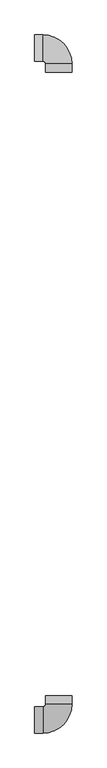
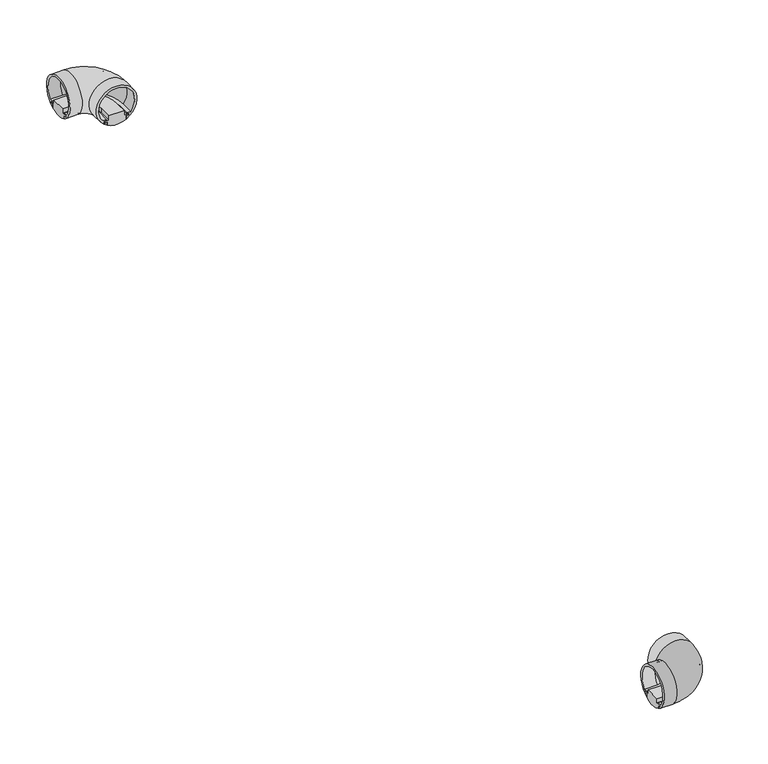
"""IFC4 building model written with IfcOpenShell, lengths in millimetres: light fixture geometry, ARTEMIDE-AoL-StandAlone-SquareRectangular_Suspended : StandALone_Suspended_SquareRectangular-1321x1321mm 9488lm 3000K."""

from ifc_helpers import new_model, si_unit, point, frame, origin, place, context, project, spatial, polyline, circle_curve, ellipse_curve, trimmed, source, transform, mapped, element, save
from ifc_brep_helpers import plane_surface, cylinder_surface, revolved_surface, advanced_brep


def light_fixture_8fe276a9(model_context):
    return source(origin(), model_context, "Body", "AdvancedBrep", [
        advanced_brep(
        [(1307.7532014, 1110.5, 502.9333396), (1307.7532014, 1110.5, 507.259212), (1311.3072884, 1110.5, 507.259212), (1311.3072884, 1110.5, 508.785971), (1305.5094589, 1110.5, 508.785971), (1305.5094589, 1110.5, 514.4273482), (1286.4969439, 1110.5, 514.4273482), (1286.4969439, 1110.5, 508.785971), (1280.6991144, 1110.5, 508.785971), (1280.6991144, 1110.5, 507.259212), (1284.2532014, 1110.5, 507.259212), (1284.2532014, 1110.5, 502.9333396), (1250.5032014, 1167.75, 502.9333396), (1250.5032014, 1144.25, 502.9333396), (1250.5032014, 1144.25, 507.259212), (1250.5032014, 1140.695913, 507.259212), (1250.5032014, 1140.695913, 508.785971), (1250.5032014, 1146.4937425, 508.785971), (1250.5032014, 1146.4937425, 514.4273482), (1250.5032014, 1165.5062575, 514.4273482), (1250.5032014, 1165.5062575, 508.785971), (1250.5032014, 1171.304087, 508.785971), (1250.5032014, 1171.304087, 507.259212), (1250.5032014, 1167.75, 507.259212), (1284.2532014, 1126.0, 502.9333396), (1307.7532014, 1126.0, 502.9333396), (1284.2532014, 1126.0, 507.259212), (1280.6991144, 1126.0, 507.259212), (1266.0032014, 1140.695913, 507.259212), (1266.0032014, 1144.25, 507.259212), (1280.6991144, 1126.0, 508.785971), (1286.4969439, 1126.0, 508.785971), (1266.0032014, 1146.4937425, 508.785971), (1266.0032014, 1140.695913, 508.785971), (1286.4969439, 1126.0, 514.4273482), (1305.5094589, 1126.0, 514.4273482), (1266.0032014, 1165.5062575, 514.4273482), (1266.0032014, 1146.4937425, 514.4273482), (1305.5094589, 1126.0, 508.785971), (1311.3072884, 1126.0, 508.785971), (1266.0032014, 1171.304087, 508.785971), (1266.0032014, 1165.5062575, 508.785971), (1311.3072884, 1126.0, 507.259212), (1307.7532014, 1126.0, 507.259212), (1266.0032014, 1167.75, 507.259212), (1266.0032014, 1171.304087, 507.259212), (1266.0032014, 1167.75, 502.9333396), (1266.0032014, 1144.25, 502.9333396)],
        [
            (0, 1),
            (1, 2),
            (2, 3),
            (3, 4),
            (4, 5),
            (5, 6),
            (6, 7),
            (7, 8),
            (8, 9),
            (9, 10),
            (10, 11),
            (11, 0, circle_curve(frame((1296.0032014, 1110.5, 525.0), z_axis=(0.0, -1.0, 0.0), x_axis=(-1.0, 0.0, 0.0)), 25.0)),
            (12, 13, circle_curve(frame((1250.5032014, 1156.0, 525.0), z_axis=(-1.0, 0.0, 0.0), x_axis=(0.0, -1.0, 0.0)), 25.0)),
            (13, 14),
            (14, 15),
            (15, 16),
            (16, 17),
            (17, 18),
            (18, 19),
            (19, 20),
            (20, 21),
            (21, 22),
            (22, 23),
            (23, 12),
            (11, 24),
            (24, 25, circle_curve(frame((1296.0032014, 1126.0, 525.0), z_axis=(0.0, -1.0, 0.0), x_axis=(-1.0, 0.0, 0.0)), 25.0)),
            (25, 0),
            (10, 26),
            (26, 24),
            (9, 27),
            (27, 28, circle_curve(frame((1266.0032014, 1126.0, 507.259212), z_axis=(0.0, 0.0, 1.0), x_axis=(1.0, 0.0, 0.0)), 14.695913)),
            (28, 15),
            (14, 29),
            (29, 26, circle_curve(frame((1266.0032014, 1126.0, 507.259212), z_axis=(0.0, 0.0, -1.0), x_axis=(1.0, 0.0, 0.0)), 18.25)),
            (8, 30),
            (30, 27),
            (7, 31),
            (31, 32, circle_curve(frame((1266.0032014, 1126.0, 508.785971), z_axis=(0.0, 0.0, 1.0), x_axis=(1.0, 0.0, 0.0)), 20.4937425)),
            (32, 17),
            (16, 33),
            (33, 30, circle_curve(frame((1266.0032014, 1126.0, 508.785971), z_axis=(0.0, 0.0, -1.0), x_axis=(1.0, 0.0, 0.0)), 14.695913)),
            (6, 34),
            (34, 31),
            (5, 35),
            (35, 36, circle_curve(frame((1266.0032014, 1126.0, 514.4273482), z_axis=(0.0, 0.0, 1.0), x_axis=(1.0, 0.0, 0.0)), 39.5062575)),
            (36, 19),
            (18, 37),
            (37, 34, circle_curve(frame((1266.0032014, 1126.0, 514.4273482), z_axis=(0.0, 0.0, -1.0), x_axis=(1.0, 0.0, 0.0)), 20.4937425)),
            (4, 38),
            (38, 35),
            (3, 39),
            (39, 40, circle_curve(frame((1266.0032014, 1126.0, 508.785971), z_axis=(0.0, 0.0, 1.0), x_axis=(1.0, 0.0, 0.0)), 45.304087)),
            (40, 21),
            (20, 41),
            (41, 38, circle_curve(frame((1266.0032014, 1126.0, 508.785971), z_axis=(0.0, 0.0, -1.0), x_axis=(1.0, 0.0, 0.0)), 39.5062575)),
            (2, 42),
            (42, 39),
            (1, 43),
            (43, 44, circle_curve(frame((1266.0032014, 1126.0, 507.259212), z_axis=(0.0, 0.0, 1.0), x_axis=(1.0, 0.0, 0.0)), 41.75)),
            (44, 23),
            (22, 45),
            (45, 42, circle_curve(frame((1266.0032014, 1126.0, 507.259212), z_axis=(0.0, 0.0, -1.0), x_axis=(1.0, 0.0, 0.0)), 45.304087)),
            (25, 43),
            (46, 25, circle_curve(frame((1266.0032014, 1126.0, 502.9333396), z_axis=(0.0, 0.0, -1.0), x_axis=(1.0, 0.0, 0.0)), 41.75)),
            (24, 47, circle_curve(frame((1266.0032014, 1126.0, 502.9333396), z_axis=(0.0, 0.0, 1.0), x_axis=(1.0, 0.0, 0.0)), 18.25)),
            (47, 46, circle_curve(frame((1266.0032014, 1156.0, 525.0), z_axis=(1.0, 0.0, 0.0), x_axis=(0.0, -1.0, 0.0)), 25.0)),
            (29, 47),
            (33, 28),
            (37, 32),
            (41, 36),
            (45, 40),
            (46, 44),
            (47, 13),
            (12, 46),
        ],
        [
            plane_surface(frame((1296.0032014, 1110.5, 500.0), z_axis=(0.0, -1.0, 0.0), x_axis=(0.0, 0.0, 1.0))),
            plane_surface(frame((1250.5032014, 1156.0, 500.0), z_axis=(-1.0, 0.0, 0.0), x_axis=(0.0, 0.0, 1.0))),
            cylinder_surface(frame((1296.0032014, 1110.5, 525.0), z_axis=(0.0, -1.0, 0.0), x_axis=(-1.0, 0.0, 0.0)), 25.0),
            plane_surface(frame((1284.2532014, 1110.5, 507.259212), z_axis=(-1.0, 0.0, 0.0), x_axis=(0.0, 1.0, 0.0))),
            plane_surface(frame((1280.6991144, 1110.5, 507.259212), z_axis=(0.0, 0.0, -1.0), x_axis=(0.0, 1.0, 0.0))),
            plane_surface(frame((1280.6991144, 1110.5, 508.785971), z_axis=(-1.0, 0.0, 0.0), x_axis=(0.0, 1.0, 0.0))),
            plane_surface(frame((1286.4969439, 1110.5, 508.785971), z_axis=(0.0, 0.0, 1.0), x_axis=(0.0, 1.0, 0.0))),
            plane_surface(frame((1286.4969439, 1110.5, 514.4273482), z_axis=(-1.0, 0.0, 0.0), x_axis=(0.0, 1.0, 0.0))),
            plane_surface(frame((1305.5094589, 1110.5, 514.4273482), z_axis=(0.0, 0.0, 1.0), x_axis=(0.0, 1.0, 0.0))),
            plane_surface(frame((1305.5094589, 1110.5, 508.785971), z_axis=(1.0, 0.0, 0.0), x_axis=(0.0, 1.0, 0.0))),
            plane_surface(frame((1311.3072884, 1110.5, 508.785971), z_axis=(0.0, 0.0, 1.0), x_axis=(0.0, 1.0, 0.0))),
            plane_surface(frame((1311.3072884, 1110.5, 507.259212), z_axis=(1.0, 0.0, 0.0), x_axis=(0.0, 1.0, 0.0))),
            plane_surface(frame((1307.7532014, 1110.5, 507.259212), z_axis=(0.0, 0.0, -1.0), x_axis=(0.0, 1.0, 0.0))),
            plane_surface(frame((1307.7532014, 1110.5, 502.9333396), z_axis=(1.0, 0.0, 0.0), x_axis=(0.0, 1.0, 0.0))),
            revolved_surface(trimmed(ellipse_curve(frame((1296.0032014, 1126.0, 525.0), z_axis=(0.0, -1.0, 0.0), x_axis=(-1.0, 0.0, 0.0)), 25.0, 25.0), [point((1284.2532014, 1126.0, 502.9333396))], [point((1307.7532014, 1126.0, 502.9333396))], True, "CARTESIAN"), (1266.0032014, 1126.0, 500.0), (0.0, 0.0, 1.0)),
            revolved_surface(polyline([(1284.2532014, 1126.0, 507.259212), (1284.2532014, 1126.0, 502.9333396)]), (1266.0032014, 1126.0, 500.0), (0.0, 0.0, 1.0)),
            revolved_surface(polyline([(1280.6991144, 1126.0, 508.785971), (1280.6991144, 1126.0, 507.259212)]), (1266.0032014, 1126.0, 500.0), (0.0, 0.0, 1.0)),
            revolved_surface(polyline([(1286.4969439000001, 1126.0, 514.4273482), (1286.4969439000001, 1126.0, 508.785971)]), (1266.0032014, 1126.0, 500.0), (0.0, 0.0, 1.0)),
            cylinder_surface(frame((1266.0032014, 1126.0, 500.0), z_axis=(0.0, 0.0, 1.0), x_axis=(1.0, 0.0, 0.0)), 39.5062575),
            cylinder_surface(frame((1266.0032014, 1126.0, 500.0), z_axis=(0.0, 0.0, 1.0), x_axis=(1.0, 0.0, 0.0)), 45.304087),
            cylinder_surface(frame((1266.0032014, 1126.0, 500.0), z_axis=(0.0, 0.0, 1.0), x_axis=(1.0, 0.0, 0.0)), 41.75),
            cylinder_surface(frame((1266.0032014, 1156.0, 525.0), z_axis=(1.0, 0.0, 0.0), x_axis=(0.0, -1.0, 0.0)), 25.0),
            plane_surface(frame((1266.0032014, 1144.25, 507.259212), z_axis=(0.0, -1.0, 0.0), x_axis=(-1.0, 0.0, 0.0))),
            plane_surface(frame((1266.0032014, 1140.695913, 508.785971), z_axis=(0.0, -1.0, 0.0), x_axis=(-1.0, 0.0, 0.0))),
            plane_surface(frame((1266.0032014, 1146.4937425, 514.4273482), z_axis=(0.0, -1.0, 0.0), x_axis=(-1.0, 0.0, 0.0))),
            plane_surface(frame((1266.0032014, 1165.5062575, 508.785971), z_axis=(0.0, 1.0, 0.0), x_axis=(-1.0, 0.0, 0.0))),
            plane_surface(frame((1266.0032014, 1171.304087, 507.259212), z_axis=(0.0, 1.0, 0.0), x_axis=(-1.0, 0.0, 0.0))),
            plane_surface(frame((1266.0032014, 1167.75, 502.9333396), z_axis=(0.0, 1.0, 0.0), x_axis=(-1.0, 0.0, 0.0))),
        ],
        [
            (0, [[1, 2, 3, 4, 5, 6, 7, 8, 9, 10, 11, 12]]),
            (1, [[13, 14, 15, 16, 17, 18, 19, 20, 21, 22, 23, 24]]),
            (2, [[-12, 25, 26, 27]]),
            (3, [[-11, 28, 29, -25]]),
            (4, [[-10, 30, 31, 32, -15, 33, 34, -28]]),
            (5, [[-9, 35, 36, -30]]),
            (6, [[-8, 37, 38, 39, -17, 40, 41, -35]]),
            (7, [[-7, 42, 43, -37]]),
            (8, [[-6, 44, 45, 46, -19, 47, 48, -42]]),
            (9, [[-5, 49, 50, -44]]),
            (10, [[-4, 51, 52, 53, -21, 54, 55, -49]]),
            (11, [[-3, 56, 57, -51]]),
            (12, [[-2, 58, 59, 60, -23, 61, 62, -56]]),
            (13, [[-1, -27, 63, -58]]),
            (14, [[64, -26, 65, 66]]),
            (15, [[-65, -29, -34, 67]]),
            (16, [[-31, -36, -41, 68]]),
            (17, [[-38, -43, -48, 69]]),
            (18, [[-45, -50, -55, 70]]),
            (19, [[-52, -57, -62, 71]]),
            (20, [[-59, -63, -64, 72]]),
            (21, [[-66, 73, -13, 74]]),
            (22, [[-67, -33, -14, -73]]),
            (23, [[-68, -40, -16, -32]]),
            (24, [[-69, -47, -18, -39]]),
            (25, [[-70, -54, -20, -46]]),
            (26, [[-71, -61, -22, -53]]),
            (27, [[-72, -74, -24, -60]]),
        ],
    ),
        advanced_brep(
        [(1284.2532014, 1110.5, 502.9333396), (1284.2532014, 1110.5, 507.259212), (1282.3354474, 1110.5, 507.259212), (1282.3354474, 1110.5, 505.8288843), (1280.3854474, 1110.5, 507.2440748), (1280.3854474, 1110.5, 509.244074), (1283.3354474, 1110.5, 509.244074), (1283.3354474, 1110.5, 510.744074), (1278.725222, 1110.5, 510.744074), (1313.2811808, 1110.5, 510.744074), (1308.6709554, 1110.5, 510.744074), (1308.6709554, 1110.5, 509.244074), (1311.6209554, 1110.5, 509.244074), (1311.6209554, 1110.5, 507.2440748), (1309.6709554, 1110.5, 505.8288843), (1309.6709554, 1110.5, 507.259212), (1307.7532014, 1110.5, 507.259212), (1307.7532014, 1110.5, 502.9333396), (1250.5032014, 1144.25, 502.9333396), (1250.5032014, 1167.75, 502.9333396), (1250.5032014, 1167.75, 507.259212), (1250.5032014, 1169.667754, 507.259212), (1250.5032014, 1169.667754, 505.8288843), (1250.5032014, 1171.617754, 507.2440748), (1250.5032014, 1171.617754, 509.244074), (1250.5032014, 1168.667754, 509.244074), (1250.5032014, 1168.667754, 510.744074), (1250.5032014, 1173.2779794, 510.744074), (1250.5032014, 1138.7220206, 510.744074), (1250.5032014, 1143.332246, 510.744074), (1250.5032014, 1143.332246, 509.244074), (1250.5032014, 1140.382246, 509.244074), (1250.5032014, 1140.382246, 507.2440748), (1250.5032014, 1142.332246, 505.8288843), (1250.5032014, 1142.332246, 507.259212), (1250.5032014, 1144.25, 507.259212), (1307.7532014, 1126.0, 502.9333396), (1284.2532014, 1126.0, 502.9333396), (1307.7532014, 1126.0, 507.259212), (1309.6709554, 1126.0, 507.259212), (1266.0032014, 1169.667754, 507.259212), (1266.0032014, 1167.75, 507.259212), (1309.6709554, 1126.0, 505.8288843), (1311.6209554, 1126.0, 507.2440748), (1311.6209554, 1126.0, 509.244074), (1308.6709554, 1126.0, 509.244074), (1266.0032014, 1168.667754, 509.244074), (1266.0032014, 1171.617754, 509.244074), (1308.6709554, 1126.0, 510.744074), (1313.2811808, 1126.0, 510.744074), (1266.0032014, 1173.2779794, 510.744074), (1266.0032014, 1168.667754, 510.744074), (1278.725222, 1126.0, 510.744074), (1283.3354474, 1126.0, 510.744074), (1266.0032014, 1143.332246, 510.744074), (1266.0032014, 1138.7220206, 510.744074), (1283.3354474, 1126.0, 509.244074), (1280.3854474, 1126.0, 509.244074), (1266.0032014, 1140.382246, 509.244074), (1266.0032014, 1143.332246, 509.244074), (1280.3854474, 1126.0, 507.2440748), (1282.3354474, 1126.0, 505.8288843), (1282.3354474, 1126.0, 507.259212), (1284.2532014, 1126.0, 507.259212), (1266.0032014, 1144.25, 507.259212), (1266.0032014, 1142.332246, 507.259212), (1266.0032014, 1144.25, 502.9333396), (1266.0032014, 1167.75, 502.9333396), (1266.0032014, 1169.667754, 505.8288843), (1266.0032014, 1171.617754, 507.2440748), (1266.0032014, 1140.382246, 507.2440748), (1266.0032014, 1142.332246, 505.8288843)],
        [
            (0, 1),
            (1, 2),
            (2, 3),
            (3, 4),
            (4, 5),
            (5, 6),
            (6, 7),
            (7, 8),
            (8, 9, circle_curve(frame((1296.0032014, 1110.5, 525.0), z_axis=(0.0, 1.0, 0.0), x_axis=(-1.0, 0.0, 0.0)), 22.4)),
            (9, 10),
            (10, 11),
            (11, 12),
            (12, 13),
            (13, 14),
            (14, 15),
            (15, 16),
            (16, 17),
            (17, 0, circle_curve(frame((1296.0032014, 1110.5, 525.0), z_axis=(0.0, -1.0, 0.0), x_axis=(-1.0, 0.0, 0.0)), 25.0)),
            (18, 19, circle_curve(frame((1250.5032014, 1156.0, 525.0), z_axis=(-1.0, 0.0, 0.0), x_axis=(0.0, -1.0, 0.0)), 25.0)),
            (19, 20),
            (20, 21),
            (21, 22),
            (22, 23),
            (23, 24),
            (24, 25),
            (25, 26),
            (26, 27),
            (27, 28, circle_curve(frame((1250.5032014, 1156.0, 525.0), z_axis=(1.0, 0.0, 0.0), x_axis=(0.0, -1.0, 0.0)), 22.4)),
            (28, 29),
            (29, 30),
            (30, 31),
            (31, 32),
            (32, 33),
            (33, 34),
            (34, 35),
            (35, 18),
            (17, 36),
            (36, 37, circle_curve(frame((1296.0032014, 1126.0, 525.0), z_axis=(0.0, -1.0, 0.0), x_axis=(-1.0, 0.0, 0.0)), 25.0)),
            (37, 0),
            (16, 38),
            (38, 36),
            (15, 39),
            (39, 40, circle_curve(frame((1266.0032014, 1126.0, 507.259212), z_axis=(0.0, 0.0, 1.0), x_axis=(1.0, 0.0, 0.0)), 43.667754)),
            (40, 21),
            (20, 41),
            (41, 38, circle_curve(frame((1266.0032014, 1126.0, 507.259212), z_axis=(0.0, 0.0, -1.0), x_axis=(1.0, 0.0, 0.0)), 41.75)),
            (14, 42),
            (42, 39),
            (13, 43),
            (43, 42),
            (12, 44),
            (44, 43),
            (11, 45),
            (45, 46, circle_curve(frame((1266.0032014, 1126.0, 509.244074), z_axis=(0.0, 0.0, 1.0), x_axis=(1.0, 0.0, 0.0)), 42.667754)),
            (46, 25),
            (24, 47),
            (47, 44, circle_curve(frame((1266.0032014, 1126.0, 509.244074), z_axis=(0.0, 0.0, -1.0), x_axis=(1.0, 0.0, 0.0)), 45.617754)),
            (10, 48),
            (48, 45),
            (9, 49),
            (49, 50, circle_curve(frame((1266.0032014, 1126.0, 510.744074), z_axis=(0.0, 0.0, 1.0), x_axis=(1.0, 0.0, 0.0)), 47.2779794)),
            (50, 27),
            (26, 51),
            (51, 48, circle_curve(frame((1266.0032014, 1126.0, 510.744074), z_axis=(0.0, 0.0, -1.0), x_axis=(1.0, 0.0, 0.0)), 42.667754)),
            (8, 52),
            (52, 49, circle_curve(frame((1296.0032014, 1126.0, 525.0), z_axis=(0.0, 1.0, 0.0), x_axis=(-1.0, 0.0, 0.0)), 22.4)),
            (7, 53),
            (53, 54, circle_curve(frame((1266.0032014, 1126.0, 510.744074), z_axis=(0.0, 0.0, 1.0), x_axis=(1.0, 0.0, 0.0)), 17.332246)),
            (54, 29),
            (28, 55),
            (55, 52, circle_curve(frame((1266.0032014, 1126.0, 510.744074), z_axis=(0.0, 0.0, -1.0), x_axis=(1.0, 0.0, 0.0)), 12.7220206)),
            (6, 56),
            (56, 53),
            (5, 57),
            (57, 58, circle_curve(frame((1266.0032014, 1126.0, 509.244074), z_axis=(0.0, 0.0, 1.0), x_axis=(1.0, 0.0, 0.0)), 14.382246)),
            (58, 31),
            (30, 59),
            (59, 56, circle_curve(frame((1266.0032014, 1126.0, 509.244074), z_axis=(0.0, 0.0, -1.0), x_axis=(1.0, 0.0, 0.0)), 17.332246)),
            (4, 60),
            (60, 57),
            (3, 61),
            (61, 60),
            (2, 62),
            (62, 61),
            (1, 63),
            (63, 64, circle_curve(frame((1266.0032014, 1126.0, 507.259212), z_axis=(0.0, 0.0, 1.0), x_axis=(1.0, 0.0, 0.0)), 18.25)),
            (64, 35),
            (34, 65),
            (65, 62, circle_curve(frame((1266.0032014, 1126.0, 507.259212), z_axis=(0.0, 0.0, -1.0), x_axis=(1.0, 0.0, 0.0)), 16.332246)),
            (37, 63),
            (66, 37, circle_curve(frame((1266.0032014, 1126.0, 502.9333396), z_axis=(0.0, 0.0, -1.0), x_axis=(1.0, 0.0, 0.0)), 18.25)),
            (36, 67, circle_curve(frame((1266.0032014, 1126.0, 502.9333396), z_axis=(0.0, 0.0, 1.0), x_axis=(1.0, 0.0, 0.0)), 41.75)),
            (67, 66, circle_curve(frame((1266.0032014, 1156.0, 525.0), z_axis=(1.0, 0.0, 0.0), x_axis=(0.0, -1.0, 0.0)), 25.0)),
            (41, 67),
            (42, 68, circle_curve(frame((1266.0032014, 1126.0, 505.8288843), z_axis=(0.0, 0.0, 1.0), x_axis=(1.0, 0.0, 0.0)), 43.667754)),
            (68, 40),
            (43, 69, circle_curve(frame((1266.0032014, 1126.0, 507.2440748), z_axis=(0.0, 0.0, 1.0), x_axis=(1.0, 0.0, 0.0)), 45.617754)),
            (69, 68),
            (47, 69),
            (51, 46),
            (55, 50, circle_curve(frame((1266.0032014, 1156.0, 525.0), z_axis=(-1.0, 0.0, 0.0), x_axis=(0.0, -1.0, 0.0)), 22.4)),
            (59, 54),
            (60, 70, circle_curve(frame((1266.0032014, 1126.0, 507.2440748), z_axis=(0.0, 0.0, 1.0), x_axis=(1.0, 0.0, 0.0)), 14.382246)),
            (70, 58),
            (61, 71, circle_curve(frame((1266.0032014, 1126.0, 505.8288843), z_axis=(0.0, 0.0, 1.0), x_axis=(1.0, 0.0, 0.0)), 16.332246)),
            (71, 70),
            (65, 71),
            (66, 64),
            (67, 19),
            (18, 66),
            (68, 22),
            (69, 23),
            (70, 32),
            (71, 33),
        ],
        [
            plane_surface(frame((1296.0032014, 1110.5, 500.0), z_axis=(0.0, -1.0, 0.0), x_axis=(0.0, 0.0, 1.0))),
            plane_surface(frame((1250.5032014, 1156.0, 500.0), z_axis=(-1.0, 0.0, 0.0), x_axis=(0.0, 0.0, 1.0))),
            cylinder_surface(frame((1296.0032014, 1110.5, 525.0), z_axis=(0.0, -1.0, 0.0), x_axis=(-1.0, 0.0, 0.0)), 25.0),
            plane_surface(frame((1307.7532014, 1110.5, 507.259212), z_axis=(-1.0, 0.0, 0.0), x_axis=(0.0, 1.0, 0.0))),
            plane_surface(frame((1309.6709554, 1110.5, 507.259212), z_axis=(0.0, 0.0, 1.0), x_axis=(0.0, 1.0, 0.0))),
            plane_surface(frame((1309.6709554, 1110.5, 505.8288843), z_axis=(1.0, 0.0, 0.0), x_axis=(0.0, 1.0, 0.0))),
            plane_surface(frame((1311.6209554, 1110.5, 507.2440748), z_axis=(-0.5873593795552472, 0.0, 0.8093262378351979), x_axis=(0.0, 1.0, 0.0))),
            plane_surface(frame((1311.6209554, 1110.5, 509.244074), z_axis=(-1.0, 0.0, 0.0), x_axis=(0.0, 1.0, 0.0))),
            plane_surface(frame((1308.6709554, 1110.5, 509.244074), z_axis=(0.0, 0.0, -1.0), x_axis=(0.0, 1.0, 0.0))),
            plane_surface(frame((1308.6709554, 1110.5, 510.744074), z_axis=(-1.0, 0.0, 0.0), x_axis=(0.0, 1.0, 0.0))),
            plane_surface(frame((1313.2811808, 1110.5, 510.744074), z_axis=(0.0, 0.0, 1.0), x_axis=(0.0, 1.0, 0.0))),
            revolved_surface(polyline([(1273.6032014, 1126.0, 525.0), (1273.6032014, 1110.5, 525.0)]), (1296.0032014, 1110.5, 525.0), (0.0, 1.0, 0.0)),
            plane_surface(frame((1283.3354474, 1110.5, 510.744074), z_axis=(0.0, 0.0, 1.0), x_axis=(0.0, 1.0, 0.0))),
            plane_surface(frame((1283.3354474, 1110.5, 509.244074), z_axis=(1.0, 0.0, 0.0), x_axis=(0.0, 1.0, 0.0))),
            plane_surface(frame((1280.3854474, 1110.5, 509.244074), z_axis=(0.0, 0.0, -1.0), x_axis=(0.0, 1.0, 0.0))),
            plane_surface(frame((1280.3854474, 1110.5, 507.2440748), z_axis=(1.0, 0.0, 0.0), x_axis=(0.0, 1.0, 0.0))),
            plane_surface(frame((1282.3354474, 1110.5, 505.8288843), z_axis=(0.5873593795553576, 0.0, 0.8093262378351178), x_axis=(0.0, 1.0, 0.0))),
            plane_surface(frame((1282.3354474, 1110.5, 507.259212), z_axis=(-1.0, 0.0, 0.0), x_axis=(0.0, 1.0, 0.0))),
            plane_surface(frame((1284.2532014, 1110.5, 507.259212), z_axis=(0.0, 0.0, 1.0), x_axis=(0.0, 1.0, 0.0))),
            plane_surface(frame((1284.2532014, 1110.5, 502.9333396), z_axis=(1.0, 0.0, 0.0), x_axis=(0.0, 1.0, 0.0))),
            revolved_surface(trimmed(ellipse_curve(frame((1296.0032014, 1126.0, 525.0), z_axis=(0.0, -1.0, 0.0), x_axis=(-1.0, 0.0, 0.0)), 25.0, 25.0), [point((1307.7532014, 1126.0, 502.9333396))], [point((1284.2532014, 1126.0, 502.9333396))], True, "CARTESIAN"), (1266.0032014, 1126.0, 500.0), (0.0, 0.0, 1.0)),
            revolved_surface(polyline([(1307.7532014, 1126.0, 507.259212), (1307.7532014, 1126.0, 502.9333396)]), (1266.0032014, 1126.0, 500.0), (0.0, 0.0, 1.0)),
            cylinder_surface(frame((1266.0032014, 1126.0, 500.0), z_axis=(0.0, 0.0, 1.0), x_axis=(1.0, 0.0, 0.0)), 43.667754),
            revolved_surface(polyline([(1311.6209554, 1126.0, 507.2440748), (1309.6709554, 1126.0, 505.8288843)]), (1266.0032014, 1126.0, 500.0), (0.0, 0.0, 1.0)),
            revolved_surface(polyline([(1311.6209554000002, 1126.0, 509.244074), (1311.6209554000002, 1126.0, 507.2440748)]), (1266.0032014, 1126.0, 500.0), (0.0, 0.0, 1.0)),
            revolved_surface(polyline([(1308.6709554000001, 1126.0, 510.744074), (1308.6709554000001, 1126.0, 509.244074)]), (1266.0032014, 1126.0, 500.0), (0.0, 0.0, 1.0)),
            revolved_surface(trimmed(ellipse_curve(frame((1296.0032014, 1126.0, 525.0), z_axis=(0.0, 1.0, 0.0), x_axis=(-1.0, 0.0, 0.0)), 22.4, 22.4), [point((1278.725222, 1126.0, 510.744074))], [point((1313.2811808, 1126.0, 510.744074))], True, "CARTESIAN"), (1266.0032014, 1126.0, 500.0), (0.0, 0.0, 1.0)),
            cylinder_surface(frame((1266.0032014, 1126.0, 500.0), z_axis=(0.0, 0.0, 1.0), x_axis=(1.0, 0.0, 0.0)), 17.332246),
            cylinder_surface(frame((1266.0032014, 1126.0, 500.0), z_axis=(0.0, 0.0, 1.0), x_axis=(1.0, 0.0, 0.0)), 14.382246),
            revolved_surface(polyline([(1282.3354474, 1126.0, 505.8288843), (1280.3854474, 1126.0, 507.2440748)]), (1266.0032014, 1126.0, 500.0), (0.0, 0.0, 1.0)),
            revolved_surface(polyline([(1282.3354474, 1126.0, 507.259212), (1282.3354474, 1126.0, 505.8288843)]), (1266.0032014, 1126.0, 500.0), (0.0, 0.0, 1.0)),
            cylinder_surface(frame((1266.0032014, 1126.0, 500.0), z_axis=(0.0, 0.0, 1.0), x_axis=(1.0, 0.0, 0.0)), 18.25),
            cylinder_surface(frame((1266.0032014, 1156.0, 525.0), z_axis=(1.0, 0.0, 0.0), x_axis=(0.0, -1.0, 0.0)), 25.0),
            plane_surface(frame((1266.0032014, 1167.75, 507.259212), z_axis=(0.0, -1.0, 0.0), x_axis=(-1.0, 0.0, 0.0))),
            plane_surface(frame((1266.0032014, 1169.667754, 505.8288843), z_axis=(0.0, 1.0, 0.0), x_axis=(-1.0, 0.0, 0.0))),
            plane_surface(frame((1266.0032014, 1171.617754, 507.2440748), z_axis=(0.0, -0.5873593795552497, 0.809326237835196), x_axis=(-1.0, 0.0, 0.0))),
            plane_surface(frame((1266.0032014, 1171.617754, 509.244074), z_axis=(0.0, -1.0, 0.0), x_axis=(-1.0, 0.0, 0.0))),
            plane_surface(frame((1266.0032014, 1168.667754, 510.744074), z_axis=(0.0, -1.0, 0.0), x_axis=(-1.0, 0.0, 0.0))),
            revolved_surface(polyline([(1250.5032014, 1133.6, 525.0), (1266.0032014, 1133.6, 525.0)]), (1266.0032014, 1156.0, 525.0), (-1.0, 0.0, 0.0)),
            plane_surface(frame((1266.0032014, 1143.332246, 509.244074), z_axis=(0.0, 1.0, 0.0), x_axis=(-1.0, 0.0, 0.0))),
            plane_surface(frame((1266.0032014, 1140.382246, 507.2440748), z_axis=(0.0, 1.0, 0.0), x_axis=(-1.0, 0.0, 0.0))),
            plane_surface(frame((1266.0032014, 1142.332246, 505.8288843), z_axis=(0.0, 0.587359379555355, 0.8093262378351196), x_axis=(-1.0, 0.0, 0.0))),
            plane_surface(frame((1266.0032014, 1142.332246, 507.259212), z_axis=(0.0, -1.0, 0.0), x_axis=(-1.0, 0.0, 0.0))),
            plane_surface(frame((1266.0032014, 1144.25, 502.9333396), z_axis=(0.0, 1.0, 0.0), x_axis=(-1.0, 0.0, 0.0))),
        ],
        [
            (0, [[1, 2, 3, 4, 5, 6, 7, 8, 9, 10, 11, 12, 13, 14, 15, 16, 17, 18]]),
            (1, [[19, 20, 21, 22, 23, 24, 25, 26, 27, 28, 29, 30, 31, 32, 33, 34, 35, 36]]),
            (2, [[-18, 37, 38, 39]]),
            (3, [[-17, 40, 41, -37]]),
            (4, [[-16, 42, 43, 44, -21, 45, 46, -40]]),
            (5, [[-15, 47, 48, -42]]),
            (6, [[-14, 49, 50, -47]]),
            (7, [[-13, 51, 52, -49]]),
            (8, [[-12, 53, 54, 55, -25, 56, 57, -51]]),
            (9, [[-11, 58, 59, -53]]),
            (10, [[-10, 60, 61, 62, -27, 63, 64, -58]]),
            (11, [[-9, 65, 66, -60]]),
            (12, [[-8, 67, 68, 69, -29, 70, 71, -65]]),
            (13, [[-7, 72, 73, -67]]),
            (14, [[-6, 74, 75, 76, -31, 77, 78, -72]]),
            (15, [[-5, 79, 80, -74]]),
            (16, [[-4, 81, 82, -79]]),
            (17, [[-3, 83, 84, -81]]),
            (18, [[-2, 85, 86, 87, -35, 88, 89, -83]]),
            (19, [[-1, -39, 90, -85]]),
            (20, [[91, -38, 92, 93]]),
            (21, [[-92, -41, -46, 94]]),
            (22, [[-43, -48, 95, 96]]),
            (23, [[-95, -50, 97, 98]]),
            (24, [[-97, -52, -57, 99]]),
            (25, [[-54, -59, -64, 100]]),
            (26, [[-61, -66, -71, 101]]),
            (27, [[-68, -73, -78, 102]]),
            (28, [[-75, -80, 103, 104]]),
            (29, [[-103, -82, 105, 106]]),
            (30, [[-105, -84, -89, 107]]),
            (31, [[-86, -90, -91, 108]]),
            (32, [[-93, 109, -19, 110]]),
            (33, [[-94, -45, -20, -109]]),
            (34, [[-96, 111, -22, -44]]),
            (35, [[-98, 112, -23, -111]]),
            (36, [[-99, -56, -24, -112]]),
            (37, [[-100, -63, -26, -55]]),
            (38, [[-101, -70, -28, -62]]),
            (39, [[-102, -77, -30, -69]]),
            (40, [[-104, 113, -32, -76]]),
            (41, [[-106, 114, -33, -113]]),
            (42, [[-107, -88, -34, -114]]),
            (43, [[-108, -110, -36, -87]]),
        ],
    ),
        advanced_brep(
        [(1250.5032014, -126.75, 502.9333396), (1250.5032014, -126.75, 507.259212), (1250.5032014, -130.304087, 507.259212), (1250.5032014, -130.304087, 508.785971), (1250.5032014, -124.5062575, 508.785971), (1250.5032014, -124.5062575, 514.4273482), (1250.5032014, -105.4937425, 514.4273482), (1250.5032014, -105.4937425, 508.785971), (1250.5032014, -99.695913, 508.785971), (1250.5032014, -99.695913, 507.259212), (1250.5032014, -103.25, 507.259212), (1250.5032014, -103.25, 502.9333396), (1307.7532014, -69.5, 502.9333396), (1284.2532014, -69.5, 502.9333396), (1284.2532014, -69.5, 507.259212), (1280.6991144, -69.5, 507.259212), (1280.6991144, -69.5, 508.785971), (1286.4969439, -69.5, 508.785971), (1286.4969439, -69.5, 514.4273482), (1305.5094589, -69.5, 514.4273482), (1305.5094589, -69.5, 508.785971), (1311.3072884, -69.5, 508.785971), (1311.3072884, -69.5, 507.259212), (1307.7532014, -69.5, 507.259212), (1266.0032014, -103.25, 502.9333396), (1266.0032014, -126.75, 502.9333396), (1266.0032014, -103.25, 507.259212), (1266.0032014, -99.695913, 507.259212), (1280.6991144, -85.0, 507.259212), (1284.2532014, -85.0, 507.259212), (1266.0032014, -99.695913, 508.785971), (1266.0032014, -105.4937425, 508.785971), (1286.4969439, -85.0, 508.785971), (1280.6991144, -85.0, 508.785971), (1266.0032014, -105.4937425, 514.4273482), (1266.0032014, -124.5062575, 514.4273482), (1305.5094589, -85.0, 514.4273482), (1286.4969439, -85.0, 514.4273482), (1266.0032014, -124.5062575, 508.785971), (1266.0032014, -130.304087, 508.785971), (1311.3072884, -85.0, 508.785971), (1305.5094589, -85.0, 508.785971), (1266.0032014, -130.304087, 507.259212), (1266.0032014, -126.75, 507.259212), (1307.7532014, -85.0, 507.259212), (1311.3072884, -85.0, 507.259212), (1307.7532014, -85.0, 502.9333396), (1284.2532014, -85.0, 502.9333396)],
        [
            (0, 1),
            (1, 2),
            (2, 3),
            (3, 4),
            (4, 5),
            (5, 6),
            (6, 7),
            (7, 8),
            (8, 9),
            (9, 10),
            (10, 11),
            (11, 0, circle_curve(frame((1250.5032014, -115.0, 525.0), z_axis=(-1.0, 0.0, 0.0), x_axis=(0.0, 1.0, 0.0)), 25.0)),
            (12, 13, circle_curve(frame((1296.0032014, -69.5, 525.0), z_axis=(0.0, 1.0, 0.0), x_axis=(-1.0, 0.0, 0.0)), 25.0)),
            (13, 14),
            (14, 15),
            (15, 16),
            (16, 17),
            (17, 18),
            (18, 19),
            (19, 20),
            (20, 21),
            (21, 22),
            (22, 23),
            (23, 12),
            (11, 24),
            (24, 25, circle_curve(frame((1266.0032014, -115.0, 525.0), z_axis=(-1.0, 0.0, 0.0), x_axis=(0.0, 1.0, 0.0)), 25.0)),
            (25, 0),
            (10, 26),
            (26, 24),
            (9, 27),
            (27, 28, circle_curve(frame((1266.0032014, -85.0, 507.259212), z_axis=(0.0, 0.0, 1.0), x_axis=(0.0, -1.0, 0.0)), 14.695913)),
            (28, 15),
            (14, 29),
            (29, 26, circle_curve(frame((1266.0032014, -85.0, 507.259212), z_axis=(0.0, 0.0, -1.0), x_axis=(0.0, -1.0, 0.0)), 18.25)),
            (8, 30),
            (30, 27),
            (7, 31),
            (31, 32, circle_curve(frame((1266.0032014, -85.0, 508.785971), z_axis=(0.0, 0.0, 1.0), x_axis=(0.0, -1.0, 0.0)), 20.4937425)),
            (32, 17),
            (16, 33),
            (33, 30, circle_curve(frame((1266.0032014, -85.0, 508.785971), z_axis=(0.0, 0.0, -1.0), x_axis=(0.0, -1.0, 0.0)), 14.695913)),
            (6, 34),
            (34, 31),
            (5, 35),
            (35, 36, circle_curve(frame((1266.0032014, -85.0, 514.4273482), z_axis=(0.0, 0.0, 1.0), x_axis=(0.0, -1.0, 0.0)), 39.5062575)),
            (36, 19),
            (18, 37),
            (37, 34, circle_curve(frame((1266.0032014, -85.0, 514.4273482), z_axis=(0.0, 0.0, -1.0), x_axis=(0.0, -1.0, 0.0)), 20.4937425)),
            (4, 38),
            (38, 35),
            (3, 39),
            (39, 40, circle_curve(frame((1266.0032014, -85.0, 508.785971), z_axis=(0.0, 0.0, 1.0), x_axis=(0.0, -1.0, 0.0)), 45.304087)),
            (40, 21),
            (20, 41),
            (41, 38, circle_curve(frame((1266.0032014, -85.0, 508.785971), z_axis=(0.0, 0.0, -1.0), x_axis=(0.0, -1.0, 0.0)), 39.5062575)),
            (2, 42),
            (42, 39),
            (1, 43),
            (43, 44, circle_curve(frame((1266.0032014, -85.0, 507.259212), z_axis=(0.0, 0.0, 1.0), x_axis=(0.0, -1.0, 0.0)), 41.75)),
            (44, 23),
            (22, 45),
            (45, 42, circle_curve(frame((1266.0032014, -85.0, 507.259212), z_axis=(0.0, 0.0, -1.0), x_axis=(0.0, -1.0, 0.0)), 45.304087)),
            (25, 43),
            (46, 25, circle_curve(frame((1266.0032014, -85.0, 502.9333396), z_axis=(0.0, 0.0, -1.0), x_axis=(0.0, -1.0, 0.0)), 41.75)),
            (24, 47, circle_curve(frame((1266.0032014, -85.0, 502.9333396), z_axis=(0.0, 0.0, 1.0), x_axis=(0.0, -1.0, 0.0)), 18.25)),
            (47, 46, circle_curve(frame((1296.0032014, -85.0, 525.0), z_axis=(0.0, -1.0, 0.0), x_axis=(-1.0, 0.0, 0.0)), 25.0)),
            (29, 47),
            (33, 28),
            (37, 32),
            (41, 36),
            (45, 40),
            (46, 44),
            (47, 13),
            (12, 46),
        ],
        [
            plane_surface(frame((1250.5032014, -115.0, 500.0), z_axis=(-1.0, 0.0, 0.0), x_axis=(0.0, 0.0, 1.0))),
            plane_surface(frame((1296.0032014, -69.5, 500.0), z_axis=(0.0, 1.0, 0.0), x_axis=(0.0, 0.0, 1.0))),
            cylinder_surface(frame((1250.5032014, -115.0, 525.0), z_axis=(-1.0, 0.0, 0.0), x_axis=(0.0, 1.0, 0.0)), 25.0),
            plane_surface(frame((1250.5032014, -103.25, 507.259212), z_axis=(0.0, 1.0, 0.0), x_axis=(1.0, 0.0, 0.0))),
            plane_surface(frame((1250.5032014, -99.695913, 507.259212), z_axis=(0.0, 0.0, -1.0), x_axis=(1.0, 0.0, 0.0))),
            plane_surface(frame((1250.5032014, -99.695913, 508.785971), z_axis=(0.0, 1.0, 0.0), x_axis=(1.0, 0.0, 0.0))),
            plane_surface(frame((1250.5032014, -105.4937425, 508.785971), z_axis=(0.0, 0.0, 1.0), x_axis=(1.0, 0.0, 0.0))),
            plane_surface(frame((1250.5032014, -105.4937425, 514.4273482), z_axis=(0.0, 1.0, 0.0), x_axis=(1.0, 0.0, 0.0))),
            plane_surface(frame((1250.5032014, -124.5062575, 514.4273482), z_axis=(0.0, 0.0, 1.0), x_axis=(1.0, 0.0, 0.0))),
            plane_surface(frame((1250.5032014, -124.5062575, 508.785971), z_axis=(0.0, -1.0, 0.0), x_axis=(1.0, 0.0, 0.0))),
            plane_surface(frame((1250.5032014, -130.304087, 508.785971), z_axis=(0.0, 0.0, 1.0), x_axis=(1.0, 0.0, 0.0))),
            plane_surface(frame((1250.5032014, -130.304087, 507.259212), z_axis=(0.0, -1.0, 0.0), x_axis=(1.0, 0.0, 0.0))),
            plane_surface(frame((1250.5032014, -126.75, 507.259212), z_axis=(0.0, 0.0, -1.0), x_axis=(1.0, 0.0, 0.0))),
            plane_surface(frame((1250.5032014, -126.75, 502.9333396), z_axis=(0.0, -1.0, 0.0), x_axis=(1.0, 0.0, 0.0))),
            revolved_surface(trimmed(ellipse_curve(frame((1266.0032014, -115.0, 525.0), z_axis=(-1.0, 0.0, 0.0), x_axis=(0.0, 1.0, 0.0)), 25.0, 25.0), [point((1266.0032014, -103.25, 502.9333396))], [point((1266.0032014, -126.75, 502.9333396))], True, "CARTESIAN"), (1266.0032014, -85.0, 500.0), (0.0, 0.0, 1.0)),
            revolved_surface(polyline([(1266.0032014, -103.25, 507.259212), (1266.0032014, -103.25, 502.9333396)]), (1266.0032014, -85.0, 500.0), (0.0, 0.0, 1.0)),
            revolved_surface(polyline([(1266.0032014, -99.695913, 508.785971), (1266.0032014, -99.695913, 507.259212)]), (1266.0032014, -85.0, 500.0), (0.0, 0.0, 1.0)),
            revolved_surface(polyline([(1266.0032014, -105.4937425, 514.4273482), (1266.0032014, -105.4937425, 508.785971)]), (1266.0032014, -85.0, 500.0), (0.0, 0.0, 1.0)),
            cylinder_surface(frame((1266.0032014, -85.0, 500.0), z_axis=(0.0, 0.0, 1.0), x_axis=(0.0, -1.0, 0.0)), 39.5062575),
            cylinder_surface(frame((1266.0032014, -85.0, 500.0), z_axis=(0.0, 0.0, 1.0), x_axis=(0.0, -1.0, 0.0)), 45.304087),
            cylinder_surface(frame((1266.0032014, -85.0, 500.0), z_axis=(0.0, 0.0, 1.0), x_axis=(0.0, -1.0, 0.0)), 41.75),
            cylinder_surface(frame((1296.0032014, -85.0, 525.0), z_axis=(0.0, -1.0, 0.0), x_axis=(-1.0, 0.0, 0.0)), 25.0),
            plane_surface(frame((1284.2532014, -85.0, 507.259212), z_axis=(-1.0, 0.0, 0.0), x_axis=(0.0, 1.0, 0.0))),
            plane_surface(frame((1280.6991144, -85.0, 508.785971), z_axis=(-1.0, 0.0, 0.0), x_axis=(0.0, 1.0, 0.0))),
            plane_surface(frame((1286.4969439, -85.0, 514.4273482), z_axis=(-1.0, 0.0, 0.0), x_axis=(0.0, 1.0, 0.0))),
            plane_surface(frame((1305.5094589, -85.0, 508.785971), z_axis=(1.0, 0.0, 0.0), x_axis=(0.0, 1.0, 0.0))),
            plane_surface(frame((1311.3072884, -85.0, 507.259212), z_axis=(1.0, 0.0, 0.0), x_axis=(0.0, 1.0, 0.0))),
            plane_surface(frame((1307.7532014, -85.0, 502.9333396), z_axis=(1.0, 0.0, 0.0), x_axis=(0.0, 1.0, 0.0))),
        ],
        [
            (0, [[1, 2, 3, 4, 5, 6, 7, 8, 9, 10, 11, 12]]),
            (1, [[13, 14, 15, 16, 17, 18, 19, 20, 21, 22, 23, 24]]),
            (2, [[-12, 25, 26, 27]]),
            (3, [[-11, 28, 29, -25]]),
            (4, [[-10, 30, 31, 32, -15, 33, 34, -28]]),
            (5, [[-9, 35, 36, -30]]),
            (6, [[-8, 37, 38, 39, -17, 40, 41, -35]]),
            (7, [[-7, 42, 43, -37]]),
            (8, [[-6, 44, 45, 46, -19, 47, 48, -42]]),
            (9, [[-5, 49, 50, -44]]),
            (10, [[-4, 51, 52, 53, -21, 54, 55, -49]]),
            (11, [[-3, 56, 57, -51]]),
            (12, [[-2, 58, 59, 60, -23, 61, 62, -56]]),
            (13, [[-1, -27, 63, -58]]),
            (14, [[64, -26, 65, 66]]),
            (15, [[-65, -29, -34, 67]]),
            (16, [[-31, -36, -41, 68]]),
            (17, [[-38, -43, -48, 69]]),
            (18, [[-45, -50, -55, 70]]),
            (19, [[-52, -57, -62, 71]]),
            (20, [[-59, -63, -64, 72]]),
            (21, [[-66, 73, -13, 74]]),
            (22, [[-67, -33, -14, -73]]),
            (23, [[-68, -40, -16, -32]]),
            (24, [[-69, -47, -18, -39]]),
            (25, [[-70, -54, -20, -46]]),
            (26, [[-71, -61, -22, -53]]),
            (27, [[-72, -74, -24, -60]]),
        ],
    ),
        advanced_brep(
        [(1250.5032014, -103.25, 502.9333396), (1250.5032014, -103.25, 507.259212), (1250.5032014, -101.332246, 507.259212), (1250.5032014, -101.332246, 505.8288843), (1250.5032014, -99.382246, 507.2440748), (1250.5032014, -99.382246, 509.244074), (1250.5032014, -102.332246, 509.244074), (1250.5032014, -102.332246, 510.744074), (1250.5032014, -97.7220206, 510.744074), (1250.5032014, -132.2779794, 510.744074), (1250.5032014, -127.667754, 510.744074), (1250.5032014, -127.667754, 509.244074), (1250.5032014, -130.617754, 509.244074), (1250.5032014, -130.617754, 507.2440748), (1250.5032014, -128.667754, 505.8288843), (1250.5032014, -128.667754, 507.259212), (1250.5032014, -126.75, 507.259212), (1250.5032014, -126.75, 502.9333396), (1284.2532014, -69.5, 502.9333396), (1307.7532014, -69.5, 502.9333396), (1307.7532014, -69.5, 507.259212), (1309.6709554, -69.5, 507.259212), (1309.6709554, -69.5, 505.8288843), (1311.6209554, -69.5, 507.2440748), (1311.6209554, -69.5, 509.244074), (1308.6709554, -69.5, 509.244074), (1308.6709554, -69.5, 510.744074), (1313.2811808, -69.5, 510.744074), (1278.725222, -69.5, 510.744074), (1283.3354474, -69.5, 510.744074), (1283.3354474, -69.5, 509.244074), (1280.3854474, -69.5, 509.244074), (1280.3854474, -69.5, 507.2440748), (1282.3354474, -69.5, 505.8288843), (1282.3354474, -69.5, 507.259212), (1284.2532014, -69.5, 507.259212), (1266.0032014, -126.75, 502.9333396), (1266.0032014, -103.25, 502.9333396), (1266.0032014, -126.75, 507.259212), (1266.0032014, -128.667754, 507.259212), (1309.6709554, -85.0, 507.259212), (1307.7532014, -85.0, 507.259212), (1266.0032014, -128.667754, 505.8288843), (1266.0032014, -130.617754, 507.2440748), (1266.0032014, -130.617754, 509.244074), (1266.0032014, -127.667754, 509.244074), (1308.6709554, -85.0, 509.244074), (1311.6209554, -85.0, 509.244074), (1266.0032014, -127.667754, 510.744074), (1266.0032014, -132.2779794, 510.744074), (1313.2811808, -85.0, 510.744074), (1308.6709554, -85.0, 510.744074), (1266.0032014, -97.7220206, 510.744074), (1266.0032014, -102.332246, 510.744074), (1283.3354474, -85.0, 510.744074), (1278.725222, -85.0, 510.744074), (1266.0032014, -102.332246, 509.244074), (1266.0032014, -99.382246, 509.244074), (1280.3854474, -85.0, 509.244074), (1283.3354474, -85.0, 509.244074), (1266.0032014, -99.382246, 507.2440748), (1266.0032014, -101.332246, 505.8288843), (1266.0032014, -101.332246, 507.259212), (1266.0032014, -103.25, 507.259212), (1284.2532014, -85.0, 507.259212), (1282.3354474, -85.0, 507.259212), (1284.2532014, -85.0, 502.9333396), (1307.7532014, -85.0, 502.9333396), (1309.6709554, -85.0, 505.8288843), (1311.6209554, -85.0, 507.2440748), (1280.3854474, -85.0, 507.2440748), (1282.3354474, -85.0, 505.8288843)],
        [
            (0, 1),
            (1, 2),
            (2, 3),
            (3, 4),
            (4, 5),
            (5, 6),
            (6, 7),
            (7, 8),
            (8, 9, circle_curve(frame((1250.5032014, -115.0, 525.0), z_axis=(1.0, 0.0, 0.0), x_axis=(0.0, 1.0, 0.0)), 22.4)),
            (9, 10),
            (10, 11),
            (11, 12),
            (12, 13),
            (13, 14),
            (14, 15),
            (15, 16),
            (16, 17),
            (17, 0, circle_curve(frame((1250.5032014, -115.0, 525.0), z_axis=(-1.0, 0.0, 0.0), x_axis=(0.0, 1.0, 0.0)), 25.0)),
            (18, 19, circle_curve(frame((1296.0032014, -69.5, 525.0), z_axis=(0.0, 1.0, 0.0), x_axis=(-1.0, 0.0, 0.0)), 25.0)),
            (19, 20),
            (20, 21),
            (21, 22),
            (22, 23),
            (23, 24),
            (24, 25),
            (25, 26),
            (26, 27),
            (27, 28, circle_curve(frame((1296.0032014, -69.5, 525.0), z_axis=(0.0, -1.0, 0.0), x_axis=(-1.0, 0.0, 0.0)), 22.4)),
            (28, 29),
            (29, 30),
            (30, 31),
            (31, 32),
            (32, 33),
            (33, 34),
            (34, 35),
            (35, 18),
            (17, 36),
            (36, 37, circle_curve(frame((1266.0032014, -115.0, 525.0), z_axis=(-1.0, 0.0, 0.0), x_axis=(0.0, 1.0, 0.0)), 25.0)),
            (37, 0),
            (16, 38),
            (38, 36),
            (15, 39),
            (39, 40, circle_curve(frame((1266.0032014, -85.0, 507.259212), z_axis=(0.0, 0.0, 1.0), x_axis=(0.0, -1.0, 0.0)), 43.667754)),
            (40, 21),
            (20, 41),
            (41, 38, circle_curve(frame((1266.0032014, -85.0, 507.259212), z_axis=(0.0, 0.0, -1.0), x_axis=(0.0, -1.0, 0.0)), 41.75)),
            (14, 42),
            (42, 39),
            (13, 43),
            (43, 42),
            (12, 44),
            (44, 43),
            (11, 45),
            (45, 46, circle_curve(frame((1266.0032014, -85.0, 509.244074), z_axis=(0.0, 0.0, 1.0), x_axis=(0.0, -1.0, 0.0)), 42.667754)),
            (46, 25),
            (24, 47),
            (47, 44, circle_curve(frame((1266.0032014, -85.0, 509.244074), z_axis=(0.0, 0.0, -1.0), x_axis=(0.0, -1.0, 0.0)), 45.617754)),
            (10, 48),
            (48, 45),
            (9, 49),
            (49, 50, circle_curve(frame((1266.0032014, -85.0, 510.744074), z_axis=(0.0, 0.0, 1.0), x_axis=(0.0, -1.0, 0.0)), 47.2779794)),
            (50, 27),
            (26, 51),
            (51, 48, circle_curve(frame((1266.0032014, -85.0, 510.744074), z_axis=(0.0, 0.0, -1.0), x_axis=(0.0, -1.0, 0.0)), 42.667754)),
            (8, 52),
            (52, 49, circle_curve(frame((1266.0032014, -115.0, 525.0), z_axis=(1.0, 0.0, 0.0), x_axis=(0.0, 1.0, 0.0)), 22.4)),
            (7, 53),
            (53, 54, circle_curve(frame((1266.0032014, -85.0, 510.744074), z_axis=(0.0, 0.0, 1.0), x_axis=(0.0, -1.0, 0.0)), 17.332246)),
            (54, 29),
            (28, 55),
            (55, 52, circle_curve(frame((1266.0032014, -85.0, 510.744074), z_axis=(0.0, 0.0, -1.0), x_axis=(0.0, -1.0, 0.0)), 12.7220206)),
            (6, 56),
            (56, 53),
            (5, 57),
            (57, 58, circle_curve(frame((1266.0032014, -85.0, 509.244074), z_axis=(0.0, 0.0, 1.0), x_axis=(0.0, -1.0, 0.0)), 14.382246)),
            (58, 31),
            (30, 59),
            (59, 56, circle_curve(frame((1266.0032014, -85.0, 509.244074), z_axis=(0.0, 0.0, -1.0), x_axis=(0.0, -1.0, 0.0)), 17.332246)),
            (4, 60),
            (60, 57),
            (3, 61),
            (61, 60),
            (2, 62),
            (62, 61),
            (1, 63),
            (63, 64, circle_curve(frame((1266.0032014, -85.0, 507.259212), z_axis=(0.0, 0.0, 1.0), x_axis=(0.0, -1.0, 0.0)), 18.25)),
            (64, 35),
            (34, 65),
            (65, 62, circle_curve(frame((1266.0032014, -85.0, 507.259212), z_axis=(0.0, 0.0, -1.0), x_axis=(0.0, -1.0, 0.0)), 16.332246)),
            (37, 63),
            (66, 37, circle_curve(frame((1266.0032014, -85.0, 502.9333396), z_axis=(0.0, 0.0, -1.0), x_axis=(0.0, -1.0, 0.0)), 18.25)),
            (36, 67, circle_curve(frame((1266.0032014, -85.0, 502.9333396), z_axis=(0.0, 0.0, 1.0), x_axis=(0.0, -1.0, 0.0)), 41.75)),
            (67, 66, circle_curve(frame((1296.0032014, -85.0, 525.0), z_axis=(0.0, -1.0, 0.0), x_axis=(-1.0, 0.0, 0.0)), 25.0)),
            (41, 67),
            (42, 68, circle_curve(frame((1266.0032014, -85.0, 505.8288843), z_axis=(0.0, 0.0, 1.0), x_axis=(0.0, -1.0, 0.0)), 43.667754)),
            (68, 40),
            (43, 69, circle_curve(frame((1266.0032014, -85.0, 507.2440748), z_axis=(0.0, 0.0, 1.0), x_axis=(0.0, -1.0, 0.0)), 45.617754)),
            (69, 68),
            (47, 69),
            (51, 46),
            (55, 50, circle_curve(frame((1296.0032014, -85.0, 525.0), z_axis=(0.0, 1.0, 0.0), x_axis=(-1.0, 0.0, 0.0)), 22.4)),
            (59, 54),
            (60, 70, circle_curve(frame((1266.0032014, -85.0, 507.2440748), z_axis=(0.0, 0.0, 1.0), x_axis=(0.0, -1.0, 0.0)), 14.382246)),
            (70, 58),
            (61, 71, circle_curve(frame((1266.0032014, -85.0, 505.8288843), z_axis=(0.0, 0.0, 1.0), x_axis=(0.0, -1.0, 0.0)), 16.332246)),
            (71, 70),
            (65, 71),
            (66, 64),
            (67, 19),
            (18, 66),
            (68, 22),
            (69, 23),
            (70, 32),
            (71, 33),
        ],
        [
            plane_surface(frame((1250.5032014, -115.0, 500.0), z_axis=(-1.0, 0.0, 0.0), x_axis=(0.0, 0.0, 1.0))),
            plane_surface(frame((1296.0032014, -69.5, 500.0), z_axis=(0.0, 1.0, 0.0), x_axis=(0.0, 0.0, 1.0))),
            cylinder_surface(frame((1250.5032014, -115.0, 525.0), z_axis=(-1.0, 0.0, 0.0), x_axis=(0.0, 1.0, 0.0)), 25.0),
            plane_surface(frame((1250.5032014, -126.75, 507.259212), z_axis=(0.0, 1.0, 0.0), x_axis=(1.0, 0.0, 0.0))),
            plane_surface(frame((1250.5032014, -128.667754, 507.259212), z_axis=(0.0, 0.0, 1.0), x_axis=(1.0, 0.0, 0.0))),
            plane_surface(frame((1250.5032014, -128.667754, 505.8288843), z_axis=(0.0, -1.0, 0.0), x_axis=(1.0, 0.0, 0.0))),
            plane_surface(frame((1250.5032014, -130.617754, 507.2440748), z_axis=(0.0, 0.5873593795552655, 0.8093262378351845), x_axis=(1.0, 0.0, 0.0))),
            plane_surface(frame((1250.5032014, -130.617754, 509.244074), z_axis=(0.0, 1.0, 0.0), x_axis=(1.0, 0.0, 0.0))),
            plane_surface(frame((1250.5032014, -127.667754, 509.244074), z_axis=(0.0, 0.0, -1.0), x_axis=(1.0, 0.0, 0.0))),
            plane_surface(frame((1250.5032014, -127.667754, 510.744074), z_axis=(0.0, 1.0, 0.0), x_axis=(1.0, 0.0, 0.0))),
            plane_surface(frame((1250.5032014, -132.2779794, 510.744074), z_axis=(0.0, 0.0, 1.0), x_axis=(1.0, 0.0, 0.0))),
            revolved_surface(polyline([(1266.0032014, -92.6, 525.0), (1250.5032014, -92.6, 525.0)]), (1250.5032014, -115.0, 525.0), (1.0, 0.0, 0.0)),
            plane_surface(frame((1250.5032014, -102.332246, 510.744074), z_axis=(0.0, 0.0, 1.0), x_axis=(1.0, 0.0, 0.0))),
            plane_surface(frame((1250.5032014, -102.332246, 509.244074), z_axis=(0.0, -1.0, 0.0), x_axis=(1.0, 0.0, 0.0))),
            plane_surface(frame((1250.5032014, -99.382246, 509.244074), z_axis=(0.0, 0.0, -1.0), x_axis=(1.0, 0.0, 0.0))),
            plane_surface(frame((1250.5032014, -99.382246, 507.2440748), z_axis=(0.0, -1.0, 0.0), x_axis=(1.0, 0.0, 0.0))),
            plane_surface(frame((1250.5032014, -101.332246, 505.8288843), z_axis=(0.0, -0.5873593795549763, 0.8093262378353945), x_axis=(1.0, 0.0, 0.0))),
            plane_surface(frame((1250.5032014, -101.332246, 507.259212), z_axis=(0.0, 1.0, 0.0), x_axis=(1.0, 0.0, 0.0))),
            plane_surface(frame((1250.5032014, -103.25, 507.259212), z_axis=(0.0, 0.0, 1.0), x_axis=(1.0, 0.0, 0.0))),
            plane_surface(frame((1250.5032014, -103.25, 502.9333396), z_axis=(0.0, -1.0, 0.0), x_axis=(1.0, 0.0, 0.0))),
            revolved_surface(trimmed(ellipse_curve(frame((1266.0032014, -115.0, 525.0), z_axis=(-1.0, 0.0, 0.0), x_axis=(0.0, 1.0, 0.0)), 25.0, 25.0), [point((1266.0032014, -126.75, 502.9333396))], [point((1266.0032014, -103.25, 502.9333396))], True, "CARTESIAN"), (1266.0032014, -85.0, 500.0), (0.0, 0.0, 1.0)),
            revolved_surface(polyline([(1266.0032014, -126.75, 507.259212), (1266.0032014, -126.75, 502.9333396)]), (1266.0032014, -85.0, 500.0), (0.0, 0.0, 1.0)),
            cylinder_surface(frame((1266.0032014, -85.0, 500.0), z_axis=(0.0, 0.0, 1.0), x_axis=(0.0, -1.0, 0.0)), 43.667754),
            revolved_surface(polyline([(1266.0032014, -130.617754, 507.2440748), (1266.0032014, -128.667754, 505.8288843)]), (1266.0032014, -85.0, 500.0), (0.0, 0.0, 1.0)),
            revolved_surface(polyline([(1266.0032014, -130.617754, 509.244074), (1266.0032014, -130.617754, 507.2440748)]), (1266.0032014, -85.0, 500.0), (0.0, 0.0, 1.0)),
            revolved_surface(polyline([(1266.0032014, -127.667754, 510.744074), (1266.0032014, -127.667754, 509.244074)]), (1266.0032014, -85.0, 500.0), (0.0, 0.0, 1.0)),
            revolved_surface(trimmed(ellipse_curve(frame((1266.0032014, -115.0, 525.0), z_axis=(1.0, 0.0, 0.0), x_axis=(0.0, 1.0, 0.0)), 22.4, 22.4), [point((1266.0032014, -97.7220206, 510.744074))], [point((1266.0032014, -132.2779794, 510.744074))], True, "CARTESIAN"), (1266.0032014, -85.0, 500.0), (0.0, 0.0, 1.0)),
            cylinder_surface(frame((1266.0032014, -85.0, 500.0), z_axis=(0.0, 0.0, 1.0), x_axis=(0.0, -1.0, 0.0)), 17.332246),
            cylinder_surface(frame((1266.0032014, -85.0, 500.0), z_axis=(0.0, 0.0, 1.0), x_axis=(0.0, -1.0, 0.0)), 14.382246),
            revolved_surface(polyline([(1266.0032014, -101.332246, 505.8288843), (1266.0032014, -99.382246, 507.2440748)]), (1266.0032014, -85.0, 500.0), (0.0, 0.0, 1.0)),
            revolved_surface(polyline([(1266.0032014, -101.332246, 507.259212), (1266.0032014, -101.332246, 505.8288843)]), (1266.0032014, -85.0, 500.0), (0.0, 0.0, 1.0)),
            cylinder_surface(frame((1266.0032014, -85.0, 500.0), z_axis=(0.0, 0.0, 1.0), x_axis=(0.0, -1.0, 0.0)), 18.25),
            cylinder_surface(frame((1296.0032014, -85.0, 525.0), z_axis=(0.0, -1.0, 0.0), x_axis=(-1.0, 0.0, 0.0)), 25.0),
            plane_surface(frame((1307.7532014, -85.0, 507.259212), z_axis=(-1.0, 0.0, 0.0), x_axis=(0.0, 1.0, 0.0))),
            plane_surface(frame((1309.6709554, -85.0, 505.8288843), z_axis=(1.0, 0.0, 0.0), x_axis=(0.0, 1.0, 0.0))),
            plane_surface(frame((1311.6209554, -85.0, 507.2440748), z_axis=(-0.587359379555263, 0.0, 0.8093262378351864), x_axis=(0.0, 1.0, 0.0))),
            plane_surface(frame((1311.6209554, -85.0, 509.244074), z_axis=(-1.0, 0.0, 0.0), x_axis=(0.0, 1.0, 0.0))),
            plane_surface(frame((1308.6709554, -85.0, 510.744074), z_axis=(-1.0, 0.0, 0.0), x_axis=(0.0, 1.0, 0.0))),
            revolved_surface(polyline([(1273.6032014, -69.5, 525.0), (1273.6032014, -85.0, 525.0)]), (1296.0032014, -85.0, 525.0), (0.0, 1.0, 0.0)),
            plane_surface(frame((1283.3354474, -85.0, 509.244074), z_axis=(1.0, 0.0, 0.0), x_axis=(0.0, 1.0, 0.0))),
            plane_surface(frame((1280.3854474, -85.0, 507.2440748), z_axis=(1.0, 0.0, 0.0), x_axis=(0.0, 1.0, 0.0))),
            plane_surface(frame((1282.3354474, -85.0, 505.8288843), z_axis=(0.5873593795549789, 0.0, 0.8093262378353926), x_axis=(0.0, 1.0, 0.0))),
            plane_surface(frame((1282.3354474, -85.0, 507.259212), z_axis=(-1.0, 0.0, 0.0), x_axis=(0.0, 1.0, 0.0))),
            plane_surface(frame((1284.2532014, -85.0, 502.9333396), z_axis=(1.0, 0.0, 0.0), x_axis=(0.0, 1.0, 0.0))),
        ],
        [
            (0, [[1, 2, 3, 4, 5, 6, 7, 8, 9, 10, 11, 12, 13, 14, 15, 16, 17, 18]]),
            (1, [[19, 20, 21, 22, 23, 24, 25, 26, 27, 28, 29, 30, 31, 32, 33, 34, 35, 36]]),
            (2, [[-18, 37, 38, 39]]),
            (3, [[-17, 40, 41, -37]]),
            (4, [[-16, 42, 43, 44, -21, 45, 46, -40]]),
            (5, [[-15, 47, 48, -42]]),
            (6, [[-14, 49, 50, -47]]),
            (7, [[-13, 51, 52, -49]]),
            (8, [[-12, 53, 54, 55, -25, 56, 57, -51]]),
            (9, [[-11, 58, 59, -53]]),
            (10, [[-10, 60, 61, 62, -27, 63, 64, -58]]),
            (11, [[-9, 65, 66, -60]]),
            (12, [[-8, 67, 68, 69, -29, 70, 71, -65]]),
            (13, [[-7, 72, 73, -67]]),
            (14, [[-6, 74, 75, 76, -31, 77, 78, -72]]),
            (15, [[-5, 79, 80, -74]]),
            (16, [[-4, 81, 82, -79]]),
            (17, [[-3, 83, 84, -81]]),
            (18, [[-2, 85, 86, 87, -35, 88, 89, -83]]),
            (19, [[-1, -39, 90, -85]]),
            (20, [[91, -38, 92, 93]]),
            (21, [[-92, -41, -46, 94]]),
            (22, [[-43, -48, 95, 96]]),
            (23, [[-95, -50, 97, 98]]),
            (24, [[-97, -52, -57, 99]]),
            (25, [[-54, -59, -64, 100]]),
            (26, [[-61, -66, -71, 101]]),
            (27, [[-68, -73, -78, 102]]),
            (28, [[-75, -80, 103, 104]]),
            (29, [[-103, -82, 105, 106]]),
            (30, [[-105, -84, -89, 107]]),
            (31, [[-86, -90, -91, 108]]),
            (32, [[-93, 109, -19, 110]]),
            (33, [[-94, -45, -20, -109]]),
            (34, [[-96, 111, -22, -44]]),
            (35, [[-98, 112, -23, -111]]),
            (36, [[-99, -56, -24, -112]]),
            (37, [[-100, -63, -26, -55]]),
            (38, [[-101, -70, -28, -62]]),
            (39, [[-102, -77, -30, -69]]),
            (40, [[-104, 113, -32, -76]]),
            (41, [[-106, 114, -33, -113]]),
            (42, [[-107, -88, -34, -114]]),
            (43, [[-108, -110, -36, -87]]),
        ],
    ),
    ])


if __name__ == "__main__":
    model = new_model("IFC4")
    model_context = context("Model", 3, world=origin())
    ifc_project = project(units=[si_unit("LENGTHUNIT", "METRE", prefix="MILLI")], contexts=[model_context])
    site = spatial("IfcSite", under=ifc_project)
    building = spatial("IfcBuilding", under=site)
    placement = place(None, origin())
    light_fixture_shape = light_fixture_8fe276a9(model_context)
    element("IfcLightFixture", 1, ObjectType="ARTEMIDE-AoL-StandAlone-SquareRectangular_Suspended : StandALone_Suspended_SquareRectangular-1321x1321mm 9488lm 3000K", at=placement, inside=building, context=model_context, shape_type="MappedRepresentation", body=[
        mapped(light_fixture_shape, transform((0.0, 0.0, 0.0), x_axis=(1.0, 0.0, 0.0), y_axis=(0.0, 1.0, 0.0), z_axis=(0.0, 0.0, 1.0))),
    ])
    save(model, "model.ifc")
